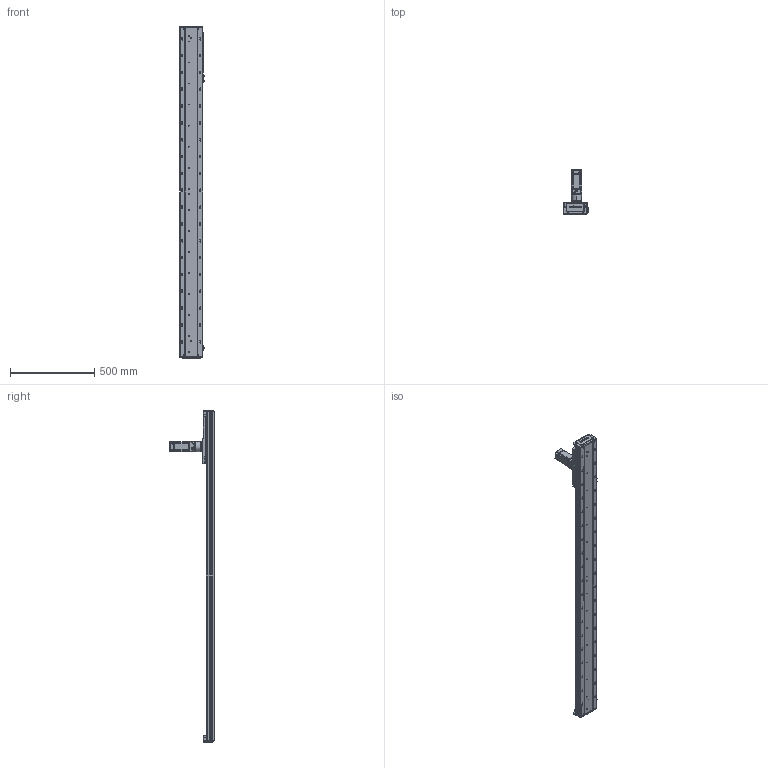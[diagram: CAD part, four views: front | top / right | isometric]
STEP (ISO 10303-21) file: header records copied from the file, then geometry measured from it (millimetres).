
FILE_DESCRIPTION (( 'STEP AP203' ), '1' );
FILE_NAME ('RY140-C-250-UK.SLDASM_1600.step', '2022-03-12T01:59:26', ( '' ), ( '' ), 'SwSTEP 2.0', 'SolidWorks 2016', '' );
FILE_SCHEMA (( 'CONFIG_CONTROL_DESIGN' ));
Length unit declared in the file: millimetre
Products named in the file (12): 140蚥薯蝶輸; 覜茼ん672; RY140-喘謫萇儂覃誹啣; 絳寢賑輸EGH15; 60ZDF珨撰俋倛芞T1 200W M4; RY140-300齿条模组型材底座_1600; RY140-絳寢EGH15-300-MK_1600; RY140-喘沭賑輸; RY120外置感应片(140共用）; 15; RY140-喘沭裔啣; RY140-C-250-UK.SLDASM_1600
Assembly tree (21 placements, depth 2):
  RY140-C-250-UK.SLDASM_1600
    RY140-300齿条模组型材底座_1600
    RY140-絳寢EGH15-300-MK_1600  x2
    絳寢賑輸EGH15  x6
    RY140-喘沭裔啣  x2
    覜茼ん672  x3
    RY140-喘沭賑輸
    RY120外置感应片(140共用）
    RY140-喘謫萇儂覃誹啣
    140蚥薯蝶輸  x2
    60ZDF珨撰俋倛芞T1 200W M4
    15
Bounding box: 153.7 x 263.5 x 1972 mm (x, y, z)
Volume: 6512395.5 mm3; surface area: 1757099 mm2
Topology: 21 solids, 21 shells, 3726 faces, 9966 edges, 6434 vertices
Faces by surface type: cylinder 1726, plane 1678, cone 276, bspline 46
Entity records: 85579 total; most frequent: CARTESIAN_POINT 19019, ORIENTED_EDGE 13570, DIRECTION 13559, EDGE_CURVE 6785, AXIS2_PLACEMENT_3D 4887, VERTEX_POINT 4443, LINE 3785, VECTOR 3785
